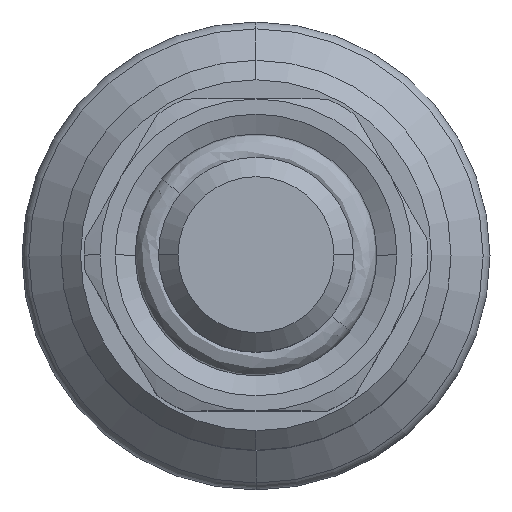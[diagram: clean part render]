
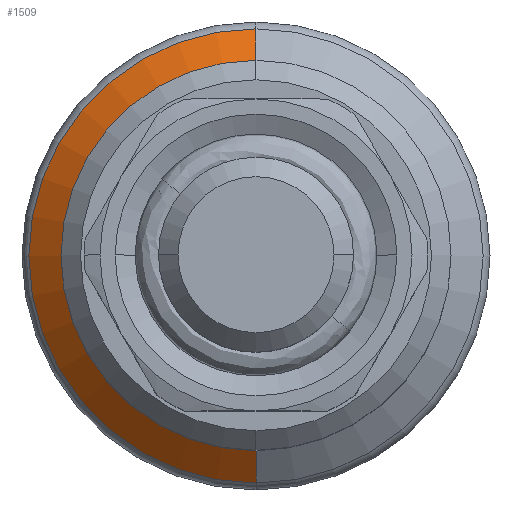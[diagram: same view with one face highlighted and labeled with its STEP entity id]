
A CAD part, top view. The second image highlights one B-rep face of the part: STEP entity #1509.
In plain terms, the highlighted conical face has half-angle 49.747 degrees and reference radius 5.823 mm.
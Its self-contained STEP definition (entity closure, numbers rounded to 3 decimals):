
#84 = CARTESIAN_POINT ( 'NONE',  ( -0.643, -4.348, 12.376 ) ) ;
#224 = CONICAL_SURFACE ( 'NONE', #4314, 5.823, 0.868 ) ;
#241 = LINE ( 'NONE', #1595, #1744 ) ;
#526 = VERTEX_POINT ( 'NONE', #4753 ) ;
#733 = EDGE_CURVE ( 'NONE', #1580, #5490, #1065, .T. ) ;
#743 = CARTESIAN_POINT ( 'NONE',  ( -0.643, -5.671, 11.256 ) ) ;
#1065 = CIRCLE ( 'NONE', #2309, 4.5 ) ;
#1241 = ORIENTED_EDGE ( 'NONE', *, *, #4222, .F. ) ;
#1357 = EDGE_CURVE ( 'NONE', #5490, #2935, #241, .T. ) ;
#1458 = ORIENTED_EDGE ( 'NONE', *, *, #1357, .T. ) ;
#1509 = ADVANCED_FACE ( 'NONE', ( #2684 ), #224, .T. ) ;
#1580 = VERTEX_POINT ( 'NONE', #84 ) ;
#1587 = VECTOR ( 'NONE', #1699, 1000. ) ;
#1595 = CARTESIAN_POINT ( 'NONE',  ( -0.643, 5.975, 11.256 ) ) ;
#1699 = DIRECTION ( 'NONE',  ( 0., -0.763, -0.646 ) ) ;
#1744 = VECTOR ( 'NONE', #3403, 1000. ) ;
#1865 = CARTESIAN_POINT ( 'NONE',  ( -0.643, 4.652, 12.376 ) ) ;
#1868 = EDGE_CURVE ( 'NONE', #526, #2935, #2614, .T. ) ;
#1963 = DIRECTION ( 'NONE',  ( 0., 0., -1. ) ) ;
#2309 = AXIS2_PLACEMENT_3D ( 'NONE', #4627, #1963, #3690 ) ;
#2614 = CIRCLE ( 'NONE', #4684, 5.823 ) ;
#2684 = FACE_OUTER_BOUND ( 'NONE', #3351, .T. ) ;
#2935 = VERTEX_POINT ( 'NONE', #4104 ) ;
#3066 = ORIENTED_EDGE ( 'NONE', *, *, #733, .T. ) ;
#3153 = CARTESIAN_POINT ( 'NONE',  ( -0.643, 0.152, 11.256 ) ) ;
#3202 = DIRECTION ( 'NONE',  ( 0., 0., -1. ) ) ;
#3351 = EDGE_LOOP ( 'NONE', ( #3066, #1458, #5568, #1241 ) ) ;
#3403 = DIRECTION ( 'NONE',  ( 0., 0.763, -0.646 ) ) ;
#3470 = LINE ( 'NONE', #743, #1587 ) ;
#3650 = DIRECTION ( 'NONE',  ( 0., -1., 0. ) ) ;
#3690 = DIRECTION ( 'NONE',  ( 0., -1., 0. ) ) ;
#4083 = DIRECTION ( 'NONE',  ( 0., 0., -1. ) ) ;
#4104 = CARTESIAN_POINT ( 'NONE',  ( -0.643, 5.975, 11.256 ) ) ;
#4222 = EDGE_CURVE ( 'NONE', #1580, #526, #3470, .T. ) ;
#4314 = AXIS2_PLACEMENT_3D ( 'NONE', #3153, #4083, #4959 ) ;
#4627 = CARTESIAN_POINT ( 'NONE',  ( -0.643, 0.152, 12.376 ) ) ;
#4684 = AXIS2_PLACEMENT_3D ( 'NONE', #5709, #3202, #3650 ) ;
#4753 = CARTESIAN_POINT ( 'NONE',  ( -0.643, -5.671, 11.256 ) ) ;
#4959 = DIRECTION ( 'NONE',  ( 0., -1., 0. ) ) ;
#5490 = VERTEX_POINT ( 'NONE', #1865 ) ;
#5568 = ORIENTED_EDGE ( 'NONE', *, *, #1868, .F. ) ;
#5709 = CARTESIAN_POINT ( 'NONE',  ( -0.643, 0.152, 11.256 ) ) ;
